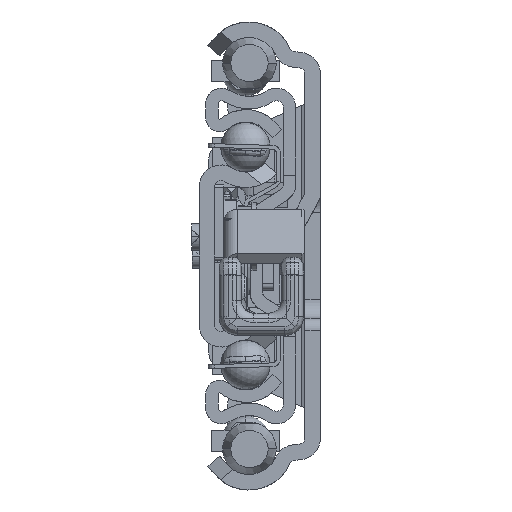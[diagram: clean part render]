
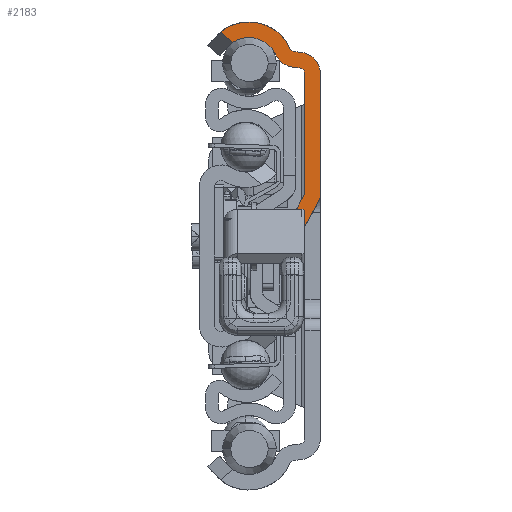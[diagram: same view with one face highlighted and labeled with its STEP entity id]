
A CAD part, left-side view. The second image highlights one B-rep face of the part: STEP entity #2183.
In plain terms, the highlighted planar face has unit normal (-1, 0, 0).
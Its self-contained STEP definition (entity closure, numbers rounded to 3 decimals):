
#1=DIRECTION('',(0.,-0.769,-0.639));
#2=VECTOR('',#1,2.575);
#3=CARTESIAN_POINT('',(0.,16.079,36.021));
#4=LINE('',#3,#2);
#5=CARTESIAN_POINT('',(0.,11.5,30.4));
#6=DIRECTION('',(1.,0.,0.));
#7=DIRECTION('',(0.,0.632,0.775));
#8=AXIS2_PLACEMENT_3D('',#5,#6,#7);
#10=DIRECTION('',(0.,-0.996,-0.087));
#11=VECTOR('',#10,0.904);
#12=CARTESIAN_POINT('',(0.,4.095,32.858));
#13=LINE('',#12,#11);
#14=CARTESIAN_POINT('',(0.,3.5,29.293));
#15=DIRECTION('',(-1.,0.,0.));
#16=DIRECTION('',(0.,-1.,0.));
#17=AXIS2_PLACEMENT_3D('',#14,#15,#16);
#19=CARTESIAN_POINT('',(0.,2.5,9.942));
#20=DIRECTION('',(1.,0.,0.));
#21=DIRECTION('',(0.,-1.,0.));
#22=AXIS2_PLACEMENT_3D('',#19,#20,#21);
#24=DIRECTION('',(0.,-1.,0.));
#25=VECTOR('',#24,2.78);
#26=CARTESIAN_POINT('',(0.,6.177,3.04));
#27=LINE('',#26,#25);
#28=CARTESIAN_POINT('',(0.,0.5,1.099));
#29=DIRECTION('',(-1.,0.,0.));
#30=DIRECTION('',(0.,0.879,0.477));
#31=AXIS2_PLACEMENT_3D('',#28,#29,#30);
#33=DIRECTION('',(0.,0.477,-0.879));
#34=VECTOR('',#33,6.873);
#35=CARTESIAN_POINT('',(0.,2.5,10.));
#36=LINE('',#35,#34);
#37=DIRECTION('',(0.,0.,1.));
#38=VECTOR('',#37,19.293);
#39=CARTESIAN_POINT('',(0.,2.5,10.));
#40=LINE('',#39,#38);
#41=DIRECTION('',(0.,0.996,0.087));
#42=VECTOR('',#41,0.904);
#43=CARTESIAN_POINT('',(0.,3.413,30.289));
#44=LINE('',#43,#42);
#45=CARTESIAN_POINT('',(0.,4.008,33.854));
#46=DIRECTION('',(-1.,0.,0.));
#47=DIRECTION('',(0.,0.908,-0.419));
#48=AXIS2_PLACEMENT_3D('',#45,#46,#47);
#50=CARTESIAN_POINT('',(0.,11.5,30.4));
#51=DIRECTION('',(-1.,0.,0.));
#52=DIRECTION('',(0.,-0.908,0.419));
#53=AXIS2_PLACEMENT_3D('',#50,#51,#52);
#99=CARTESIAN_POINT('',(0.,14.098,34.377));
#148=CARTESIAN_POINT('',(0.,3.5,29.293));
#149=DIRECTION('',(1.,0.,0.));
#150=DIRECTION('',(0.,-0.087,0.996));
#151=AXIS2_PLACEMENT_3D('',#148,#149,#150);
#576=DIRECTION('',(0.,0.,1.));
#577=VECTOR('',#576,19.351);
#578=CARTESIAN_POINT('',(0.,0.,9.942));
#579=LINE('',#578,#577);
#879=CARTESIAN_POINT('',(0.,16.079,
36.021));
#1321=CARTESIAN_POINT('',(0.,4.008,33.854));
#1322=DIRECTION('',(1.,0.,0.));
#1323=DIRECTION('',(0.,0.087,-0.996));
#1324=AXIS2_PLACEMENT_3D('',#1321,#1322,#1323);
#1418=CARTESIAN_POINT('',(0.,3.397,3.04));
#1423=DIRECTION('',(0.,-0.477,0.879));
#1424=VECTOR('',#1423,6.495);
#1425=CARTESIAN_POINT('',(0.,3.397,3.04));
#1426=LINE('',#1425,#1424);
#1671=CARTESIAN_POINT('',(0.,3.413,
30.289));
#1672=CARTESIAN_POINT('',(0.,2.5,29.293));
#1673=VERTEX_POINT('',#1671);
#1674=VERTEX_POINT('',#1672);
#1675=CARTESIAN_POINT('',(0.,4.095,32.858));
#1676=CARTESIAN_POINT('',(0.,4.916,33.436));
#1677=VERTEX_POINT('',#1675);
#1678=VERTEX_POINT('',#1676);
#1687=CARTESIAN_POINT('',(0.,7.186,32.389));
#1688=CARTESIAN_POINT('',(0.,4.313,30.368));
#1689=VERTEX_POINT('',#1687);
#1690=VERTEX_POINT('',#1688);
#1691=CARTESIAN_POINT('',(0.,0.,29.293));
#1692=CARTESIAN_POINT('',(0.,3.195,32.78));
#1693=VERTEX_POINT('',#1691);
#1694=VERTEX_POINT('',#1692);
#1787=CARTESIAN_POINT('',(0.,2.5,10.));
#1788=VERTEX_POINT('',#1787);
#1849=CARTESIAN_POINT('',(0.,0.,9.942));
#1851=VERTEX_POINT('',#1849);
#1854=CARTESIAN_POINT('',(0.,0.302,8.751));
#1855=VERTEX_POINT('',#1854);
#1858=CARTESIAN_POINT('',(0.,5.775,3.958));
#1859=VERTEX_POINT('',#1858);
#1860=CARTESIAN_POINT('',(0.,6.177,3.04));
#1861=VERTEX_POINT('',#1860);
#1864=VERTEX_POINT('',#1418);
#2126=VERTEX_POINT('',#99);
#2134=VERTEX_POINT('',#879);
#2144=CARTESIAN_POINT('',(0.,0.,0.));
#2145=DIRECTION('',(1.,0.,0.));
#2146=DIRECTION('',(0.,-1.,0.));
#2147=AXIS2_PLACEMENT_3D('',#2144,#2145,#2146);
#2148=PLANE('',#2147);
#2150=ORIENTED_EDGE('',*,*,#2149,.F.);
#2152=ORIENTED_EDGE('',*,*,#2151,.T.);
#2154=ORIENTED_EDGE('',*,*,#2153,.F.);
#2156=ORIENTED_EDGE('',*,*,#2155,.T.);
#2158=ORIENTED_EDGE('',*,*,#2157,.F.);
#2160=ORIENTED_EDGE('',*,*,#2159,.F.);
#2162=ORIENTED_EDGE('',*,*,#2161,.T.);
#2164=ORIENTED_EDGE('',*,*,#2163,.F.);
#2166=ORIENTED_EDGE('',*,*,#2165,.F.);
#2168=ORIENTED_EDGE('',*,*,#2167,.F.);
#2170=ORIENTED_EDGE('',*,*,#2169,.F.);
#2172=ORIENTED_EDGE('',*,*,#2171,.T.);
#2174=ORIENTED_EDGE('',*,*,#2173,.F.);
#2176=ORIENTED_EDGE('',*,*,#2175,.T.);
#2178=ORIENTED_EDGE('',*,*,#2177,.F.);
#2180=ORIENTED_EDGE('',*,*,#2179,.T.);
#2181=EDGE_LOOP('',(#2150,#2152,#2154,#2156,#2158,#2160,#2162,#2164,#2166,#2168,
#2170,#2172,#2174,#2176,#2178,#2180));
#2182=FACE_OUTER_BOUND('',#2181,.F.);
#9=CIRCLE('',#8,7.25);
#18=CIRCLE('',#17,3.5);
#23=CIRCLE('',#22,2.5);
#32=CIRCLE('',#31,6.);
#49=CIRCLE('',#48,3.5);
#54=CIRCLE('',#53,4.75);
#152=CIRCLE('',#151,1.);
#1325=CIRCLE('',#1324,1.);
#2149=EDGE_CURVE('',#2134,#2126,#4,.T.);
#2151=EDGE_CURVE('',#2134,#1678,#9,.T.);
#2153=EDGE_CURVE('',#1677,#1678,#1325,.T.);
#2155=EDGE_CURVE('',#1677,#1694,#13,.T.);
#2157=EDGE_CURVE('',#1693,#1694,#18,.T.);
#2159=EDGE_CURVE('',#1851,#1693,#579,.T.);
#2161=EDGE_CURVE('',#1851,#1855,#23,.T.);
#2163=EDGE_CURVE('',#1864,#1855,#1426,.T.);
#2165=EDGE_CURVE('',#1861,#1864,#27,.T.);
#2167=EDGE_CURVE('',#1859,#1861,#32,.T.);
#2169=EDGE_CURVE('',#1788,#1859,#36,.T.);
#2171=EDGE_CURVE('',#1788,#1674,#40,.T.);
#2173=EDGE_CURVE('',#1673,#1674,#152,.T.);
#2175=EDGE_CURVE('',#1673,#1690,#44,.T.);
#2177=EDGE_CURVE('',#1689,#1690,#49,.T.);
#2179=EDGE_CURVE('',#1689,#2126,#54,.T.);
#2183=ADVANCED_FACE('',(#2182),#2148,.F.);
